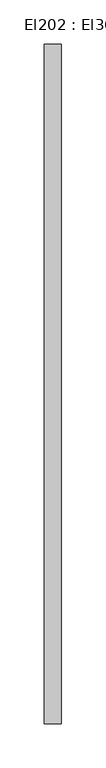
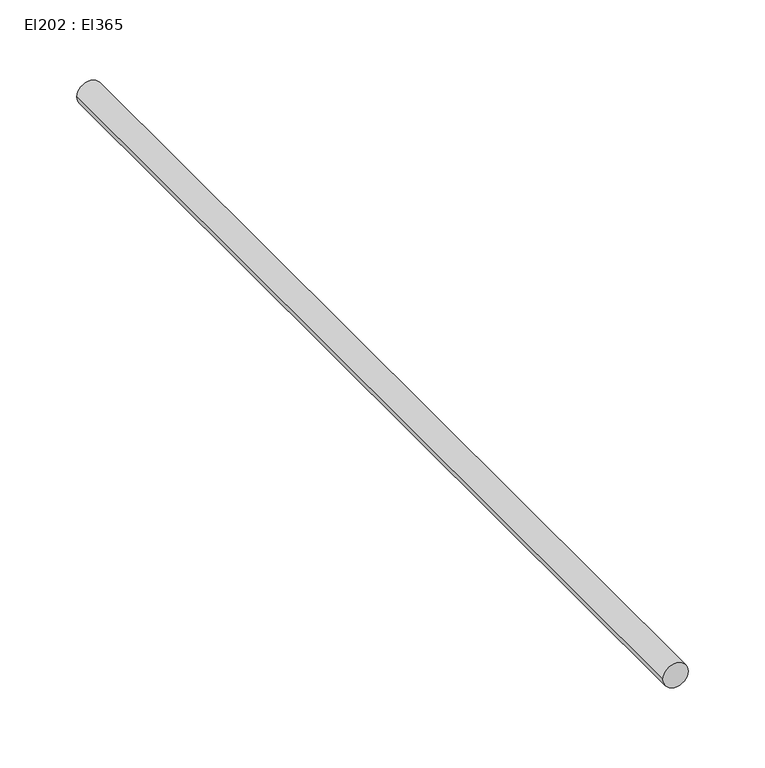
"""IFC4 building model written with IfcOpenShell, lengths in millimetres: cable carrier segment geometry, El202 : El365."""

from ifc_helpers import new_model, si_unit, point, frame, frame_2d, origin, place, context, project, spatial, circle_curve, trimmed, segment, composite_curve, outline, extrude, source, transform, mapped, element, save


def el202_el365_db73ed29(model_context):
    return source(origin(), model_context, "Body", "SweptSolid", [
        extrude(outline(composite_curve([segment(trimmed(circle_curve(frame_2d((1800.0, 31444.4746511)), 9.5), [point((1800.0, 31434.9746511))], [point((1800.0, 31453.9746511))], False, "CARTESIAN"), True, "CONTINUOUS"), segment(trimmed(circle_curve(frame_2d((1800.0, 31444.4746511)), 9.5), [point((1800.0, 31453.9746511))], [point((1800.0, 31434.9746511))], False, "CARTESIAN"), True, "CONTINUOUS")], self_intersect=False)), frame((0.0, 8316.6981745, 0.0), z_axis=(0.0, 1.0, 0.0), x_axis=(0.0, 0.0, 1.0)), (0.0, 0.0, 1.0), 764.028),
    ])


if __name__ == "__main__":
    model = new_model("IFC4")
    model_context = context("Model", 3, world=origin())
    ifc_project = project(units=[si_unit("LENGTHUNIT", "METRE", prefix="MILLI")], contexts=[model_context])
    site = spatial("IfcSite", under=ifc_project)
    building = spatial("IfcBuilding", under=site)
    placement = place(None, origin())
    el202_el365_shape = el202_el365_db73ed29(model_context)
    element("IfcCableCarrierSegment", 1, ObjectType="El202 : El365", at=placement, inside=building, context=model_context, shape_type="MappedRepresentation", body=[
        mapped(el202_el365_shape, transform((0.0, 0.0, 0.0), x_axis=(1.0, 0.0, 0.0), y_axis=(0.0, 1.0, 0.0), z_axis=(0.0, 0.0, 1.0))),
    ])
    save(model, "model.ifc")
